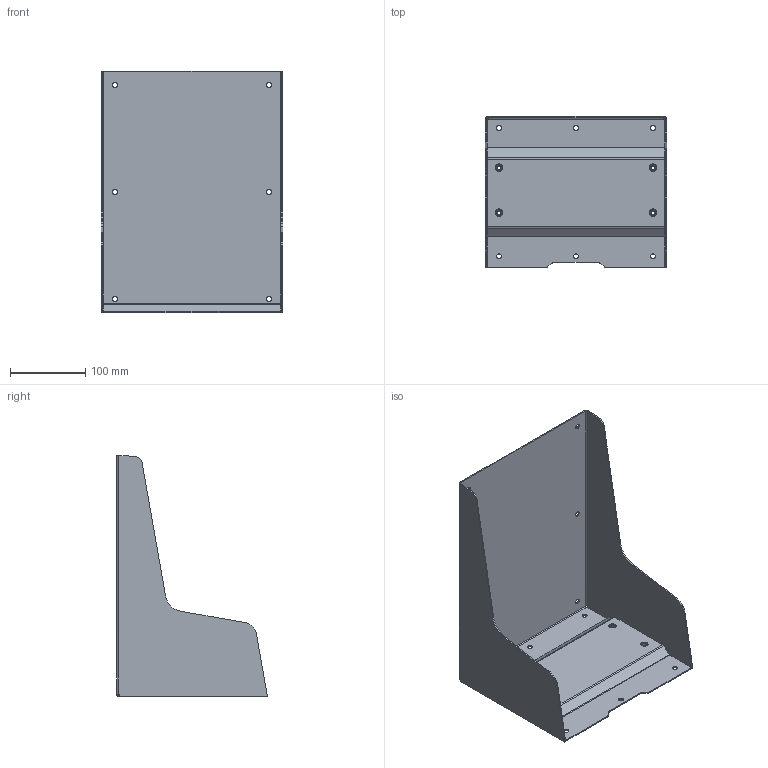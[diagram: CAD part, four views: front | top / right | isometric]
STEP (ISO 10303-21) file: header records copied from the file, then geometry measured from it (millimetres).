
FILE_DESCRIPTION (( 'STEP AP214' ), '1' );
FILE_NAME ('MONO_038-a120_01.STEP', '2025-12-08T04:53:53', ( '' ), ( '' ), 'SwSTEP 2.0', 'SolidWorks 2024', '' );
FILE_SCHEMA (( 'AUTOMOTIVE_DESIGN' ));
Length unit declared in the file: millimetre
Products named in the file (3): MONO_038-p101_Default_As Machined_; S-M6-1ZI; MONO_038-a120_01
Assembly tree (5 placements, depth 2):
  MONO_038-a120_01
    MONO_038-p101_Default_As Machined_
    S-M6-1ZI  x4
Bounding box: 240 x 200 x 320 mm (x, y, z)
Volume: 296242 mm3; surface area: 374105.2 mm2
Topology: 5 solids, 29 shells, 838 faces, 2180 edges, 1424 vertices
Faces by surface type: plane 706, cylinder 98, cone 32, bspline 2
Full cylindrical faces by diameter (mm): 6.5 x12, 8.75 x4
Entity records: 8856 total; most frequent: CARTESIAN_POINT 1614, ORIENTED_EDGE 1460, DIRECTION 1430, EDGE_CURVE 730, VECTOR 602, LINE 602, VERTEX_POINT 476, AXIS2_PLACEMENT_3D 414
